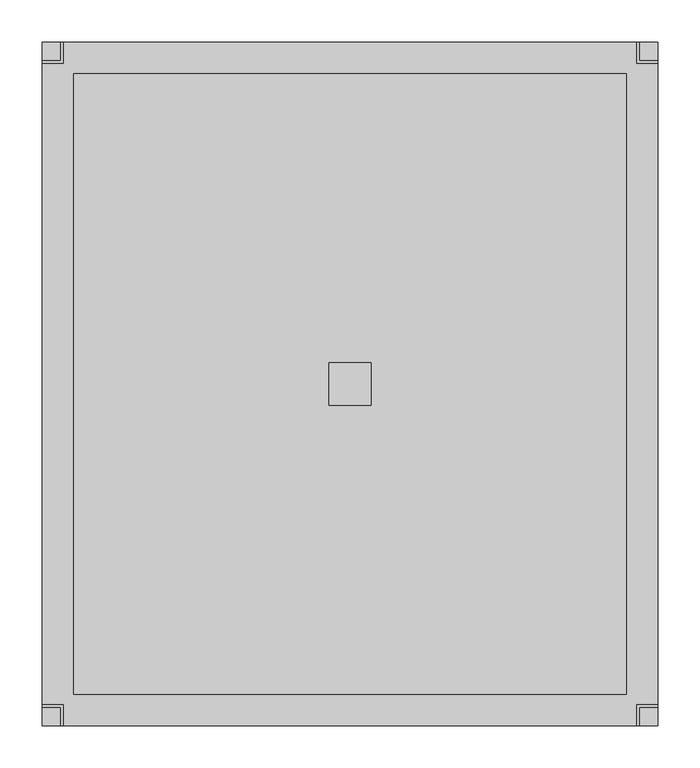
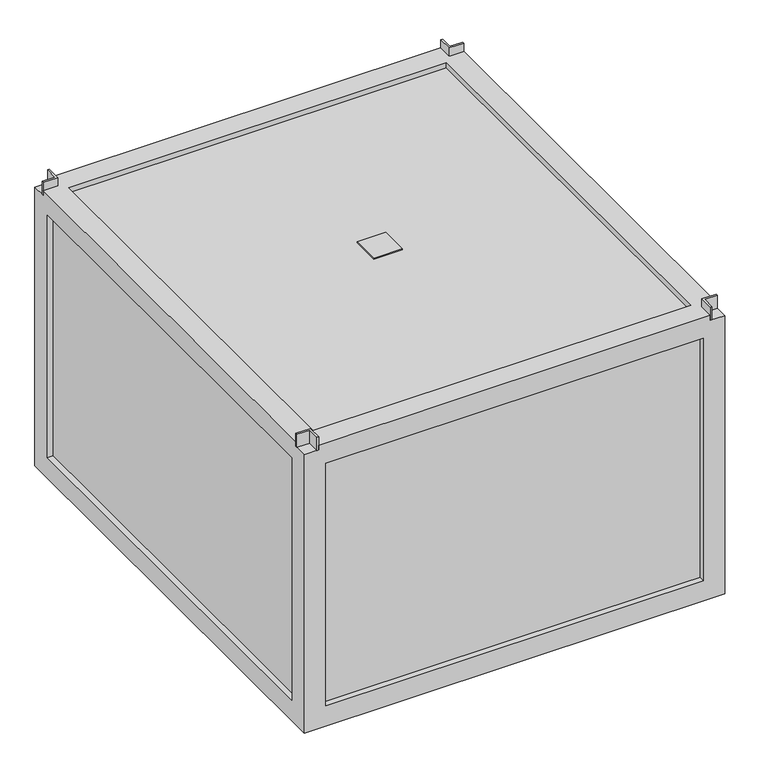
"""IFC4 building model written with IfcOpenShell, lengths in millimetres: proxy geometry, KORF_Вентилятор_UTR_WRH : UTR 60-30 WRH 28.4D."""

from ifc_helpers import new_model, si_unit, frame, origin, place, context, project, spatial, polyline, outline, extrude, faceted_brep, source, transform, mapped, element, save


def mechanical_equipment_096a3595(model_context):
    return source(origin(), model_context, "Body", "SolidModel", [
        extrude(outline(polyline([(340.0, -25.0), (340.0, 25.0), (390.0, 25.0), (390.0, -25.0), (340.0, -25.0)])), frame((0.0, 0.0, 260.0), z_axis=(0.0, 0.0, 1.0), x_axis=(1.0, 0.0, 0.0)), (0.0, 0.0, 1.0), 2.0),
        extrude(outline(polyline([(25.0, 380.0), (0.0, 380.0), (0.0, 383.0), (22.0, 383.0), (22.0, 405.0), (25.0, 405.0), (25.0, 380.0)])), frame((0.0, 0.0, 251.0), z_axis=(0.0, 0.0, 1.0), x_axis=(1.0, 0.0, 0.0)), (0.0, 0.0, 1.0), 24.0),
        extrude(outline(polyline([(705.0, 380.0), (705.0, 405.0), (708.0, 405.0), (708.0, 383.0), (730.0, 383.0), (730.0, 380.0), (705.0, 380.0)])), frame((0.0, 0.0, 251.0), z_axis=(0.0, 0.0, 1.0), x_axis=(1.0, 0.0, 0.0)), (0.0, 0.0, 1.0), 24.0),
        extrude(outline(polyline([(25.0, -380.0), (25.0, -405.0), (22.0, -405.0), (22.0, -383.0), (0.0, -383.0), (0.0, -380.0), (25.0, -380.0)])), frame((0.0, 0.0, 251.0), z_axis=(0.0, 0.0, 1.0), x_axis=(1.0, 0.0, 0.0)), (0.0, 0.0, 1.0), 24.0),
        extrude(outline(polyline([(705.0, -380.0), (730.0, -380.0), (730.0, -383.0), (708.0, -383.0), (708.0, -405.0), (705.0, -405.0), (705.0, -380.0)])), frame((0.0, 0.0, 251.0), z_axis=(0.0, 0.0, 1.0), x_axis=(1.0, 0.0, 0.0)), (0.0, 0.0, 1.0), 24.0),
        extrude(outline(polyline([(720.0, 395.0), (720.0, -395.0), (10.0, -395.0), (10.0, 395.0), (720.0, 395.0)])), frame((0.0, 0.0, -250.0), z_axis=(0.0, 0.0, 1.0), x_axis=(1.0, 0.0, 0.0)), (0.0, 0.0, 1.0), 500.0),
        faceted_brep([(0.0, -404.9999993, -259.9999993), (730.0, -404.9999993, -259.9999993), (729.9999993, -404.9999993, 251.0), (705.0, -404.9999993, 251.0), (705.0, -404.9999993, 260.0), (25.0, -404.9999993, 259.9999993), (25.0, -404.9999993, 251.0), (0.0, -404.9999993, 251.0), (37.5, -404.9999993, -222.4999993), (37.5, -404.9999993, 222.5), (692.4999993, -404.9999993, 222.5), (692.4999993, -404.9999993, -222.4999993), (10.000001, -394.9999993, -249.9999993), (10.000001, -394.9999993, 249.9999993), (719.9999993, -394.9999993, 249.999999), (719.999999, -394.9999993, -249.9999993), (37.5, -394.9999993, 222.5), (37.5, -394.9999993, -222.4999993), (692.4999993, -394.9999993, -222.4999993), (692.4999993, -394.9999993, 222.5), (0.0, -367.4999993, 222.4999993), (10.000001, -367.4999993, 222.4999993), (10.000001, -367.4999993, -222.4999993), (0.0, -367.4999993, -222.4999993), (0.0, 404.9999993, -259.9999993), (730.0, 405.0, -259.9999993), (692.5, -367.5, -259.9999993), (692.5, 367.5, -259.9999993), (37.5, 367.5, -259.9999993), (37.5, -367.5, -259.9999993), (10.000001, 394.9999993, -249.9999993), (719.999999, 394.999999, -249.9999993), (692.5, 367.5, -249.9999993), (692.5, -367.5, -249.9999993), (37.5, -367.5, -249.9999993), (37.5, 367.5, -249.9999993), (10.000001, 367.4999993, -222.4999993), (0.0, 367.4999993, -222.4999993), (0.0, 404.9999993, 251.0), (25.0, 404.9999993, 251.0), (25.0, 404.9999993, 259.9999993), (705.0, 404.9999993, 260.0), (705.0, 404.9999993, 251.0), (729.9999993, 404.9999993, 251.0), (37.5, 404.9999993, 222.5), (37.5, 404.9999993, -222.4999993), (692.4999993, 404.9999993, -222.4999993), (692.4999993, 404.9999993, 222.5), (10.000001, 394.9999993, 249.9999993), (719.9999993, 394.9999993, 249.999999), (37.5, 394.9999993, -222.4999993), (37.5, 394.9999993, 222.5), (692.4999993, 394.9999993, 222.5), (692.4999993, 394.9999993, -222.4999993), (10.000001, 367.4999993, 222.4999993), (0.0, 367.4999993, 222.4999993), (0.0, -380.0, 251.0), (0.0, -380.0, 259.9999993), (0.0, 380.0, 259.9999993), (0.0, 380.0, 251.0), (705.0, -380.0, 259.9999993), (729.9999993, -380.0, 259.9999993), (729.9999993, 380.0, 259.9999993), (705.0, 380.0, 259.9999993), (25.0, 380.0, 259.9999993), (25.0, -380.0, 259.9999993), (692.4999993, 367.4999993, 259.9999993), (692.4999993, -367.4999993, 259.9999993), (37.5000007, -367.4999993, 259.9999993), (37.5, 367.4999993, 259.9999993), (37.5, -367.4999993, 249.9999993), (37.5, 367.4999993, 249.9999993), (692.4999993, -367.4999993, 249.9999993), (692.4999993, 367.4999993, 249.9999993), (729.9999993, 380.0, 251.0), (729.9999993, -380.0, 251.0), (729.9999993, -367.5, -222.5), (729.9999993, -367.5, 222.5), (729.9999993, 367.5, 222.5), (729.9999993, 367.5, -222.5), (719.9999993, -367.5, 222.5), (719.9999993, -367.5, -222.5), (719.9999993, 367.5, -222.4999993), (719.9999993, 367.5, 222.5), (25.0, 380.0, 251.0), (705.0, 380.0, 251.0), (705.0, -380.0, 251.0), (25.0, -380.0, 251.0)], [[[0, 1, 2, 3, 4, 5, 6, 7], [8, 9, 10, 11]], [[12, 13, 14, 15], [16, 17, 18, 19]], [[20, 21, 22, 23]], [[0, 24, 25, 1], [26, 27, 28, 29]], [[30, 12, 15, 31], [32, 33, 34, 35]], [[23, 22, 36, 37]], [[25, 24, 38, 39, 40, 41, 42, 43], [44, 45, 46, 47]], [[48, 30, 31, 49], [50, 51, 52, 53]], [[37, 36, 54, 55]], [[24, 0, 7, 56, 57, 58, 59, 38], [20, 23, 37, 55]], [[5, 4, 60, 61, 62, 63, 41, 40, 64, 58, 57, 65], [66, 67, 68, 69]], [[35, 34, 29, 28]], [[69, 68, 70, 71]], [[16, 9, 8, 17]], [[44, 51, 50, 45]], [[13, 48, 49, 14], [72, 73, 71, 70]], [[12, 30, 48, 13], [22, 21, 54, 36]], [[21, 20, 55, 54]], [[1, 25, 43, 74, 62, 61, 75, 2], [76, 77, 78, 79]], [[14, 49, 31, 15], [80, 81, 82, 83]], [[66, 73, 72, 67]], [[67, 72, 70, 68]], [[9, 16, 19, 10]], [[51, 44, 47, 52]], [[80, 83, 78, 77]], [[73, 66, 69, 71]], [[32, 27, 26, 33]], [[33, 26, 29, 34]], [[27, 32, 35, 28]], [[17, 8, 11, 18]], [[45, 50, 53, 46]], [[76, 79, 82, 81]], [[77, 76, 81, 80]], [[79, 78, 83, 82]], [[11, 10, 19, 18]], [[47, 46, 53, 52]], [[59, 84, 39, 38]], [[42, 85, 74, 43]], [[75, 86, 3, 2]], [[87, 56, 7, 6]], [[84, 59, 58, 64]], [[39, 84, 64, 40]], [[85, 42, 41, 63]], [[74, 85, 63, 62]], [[86, 75, 61, 60]], [[3, 86, 60, 4]], [[56, 87, 65, 57]], [[87, 6, 5, 65]]]),
    ])


if __name__ == "__main__":
    model = new_model("IFC4")
    model_context = context("Model", 3, world=origin())
    ifc_project = project(units=[si_unit("LENGTHUNIT", "METRE", prefix="MILLI")], contexts=[model_context])
    site = spatial("IfcSite", under=ifc_project)
    building = spatial("IfcBuilding", under=site)
    placement = place(None, origin())
    mechanical_equipment_shape = mechanical_equipment_096a3595(model_context)
    element("IfcBuildingElementProxy", 1, Name="KORF_Вентилятор_UTR_WRH : UTR 60-30 WRH 28.4D", ObjectType="KORF_Вентилятор_UTR_WRH : UTR 60-30 WRH 28.4D", at=placement, inside=building, context=model_context, shape_type="MappedRepresentation", body=[
        mapped(mechanical_equipment_shape, transform((0.0, 0.0, 0.0), x_axis=(1.0, 0.0, 0.0), y_axis=(0.0, 1.0, 0.0), z_axis=(0.0, 0.0, 1.0))),
    ])
    save(model, "model.ifc")
